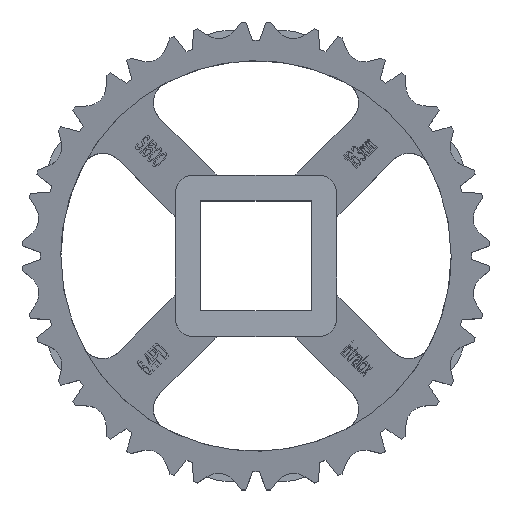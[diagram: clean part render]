
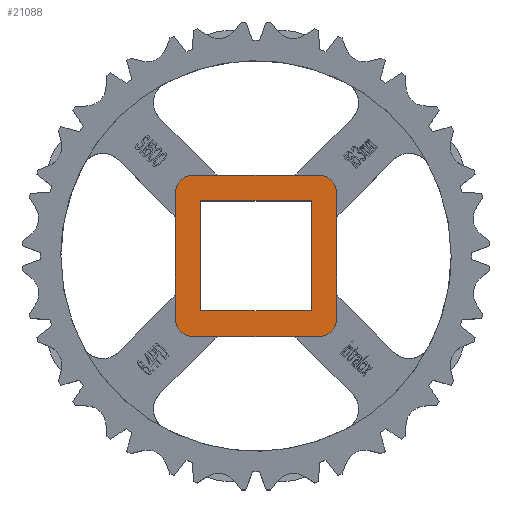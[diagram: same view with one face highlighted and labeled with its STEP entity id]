
A CAD part, top view. The second image highlights one B-rep face of the part: STEP entity #21088.
In plain terms, the highlighted planar face has unit normal (0, 0, 1).
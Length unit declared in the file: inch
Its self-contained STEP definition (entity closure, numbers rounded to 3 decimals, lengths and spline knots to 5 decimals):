
#5889=CARTESIAN_POINT('',(0.85,0.85,0.99));
#5890=DIRECTION('',(0.,0.,1.));
#5891=DIRECTION('',(1.,0.,0.));
#5892=AXIS2_PLACEMENT_3D('',#5889,#5890,#5891);
#5894=DIRECTION('',(0.,1.,0.));
#5895=VECTOR('',#5894,1.7);
#5896=CARTESIAN_POINT('',(1.1,-0.85,0.99));
#5897=LINE('',#5896,#5895);
#5898=CARTESIAN_POINT('',(0.85,-0.85,0.99));
#5899=DIRECTION('',(0.,0.,1.));
#5900=DIRECTION('',(0.,-1.,0.));
#5901=AXIS2_PLACEMENT_3D('',#5898,#5899,#5900);
#5903=DIRECTION('',(1.,0.,0.));
#5904=VECTOR('',#5903,1.7);
#5905=CARTESIAN_POINT('',(-0.85,-1.1,0.99));
#5906=LINE('',#5905,#5904);
#5907=CARTESIAN_POINT('',(-0.85,-0.85,0.99));
#5908=DIRECTION('',(0.,0.,1.));
#5909=DIRECTION('',(-1.,0.,0.));
#5910=AXIS2_PLACEMENT_3D('',#5907,#5908,#5909);
#5912=DIRECTION('',(0.,-1.,0.));
#5913=VECTOR('',#5912,1.7);
#5914=CARTESIAN_POINT('',(-1.1,0.85,0.99));
#5915=LINE('',#5914,#5913);
#5916=CARTESIAN_POINT('',(-0.85,0.85,0.99));
#5917=DIRECTION('',(0.,0.,1.));
#5918=DIRECTION('',(0.,1.,0.));
#5919=AXIS2_PLACEMENT_3D('',#5916,#5917,#5918);
#5921=DIRECTION('',(-1.,0.,0.));
#5922=VECTOR('',#5921,1.7);
#5923=CARTESIAN_POINT('',(0.85,1.1,0.99));
#5924=LINE('',#5923,#5922);
#5925=DIRECTION('',(1.,0.,0.));
#5926=VECTOR('',#5925,1.5);
#5927=CARTESIAN_POINT('',(-0.75,-0.75,0.99));
#5928=LINE('',#5927,#5926);
#5929=DIRECTION('',(0.,1.,0.));
#5930=VECTOR('',#5929,1.5);
#5931=CARTESIAN_POINT('',(0.75,-0.75,0.99));
#5932=LINE('',#5931,#5930);
#5933=DIRECTION('',(-1.,0.,0.));
#5934=VECTOR('',#5933,1.5);
#5935=CARTESIAN_POINT('',(0.75,0.75,0.99));
#5936=LINE('',#5935,#5934);
#5937=DIRECTION('',(0.,-1.,0.));
#5938=VECTOR('',#5937,1.5);
#5939=CARTESIAN_POINT('',(-0.75,0.75,0.99));
#5940=LINE('',#5939,#5938);
#12939=CARTESIAN_POINT('',(1.1,0.85,0.99));
#12941=VERTEX_POINT('',#12939);
#12943=CARTESIAN_POINT('',(0.85,1.1,0.99));
#12944=VERTEX_POINT('',#12943);
#12947=CARTESIAN_POINT('',(-0.85,1.1,0.99));
#12949=VERTEX_POINT('',#12947);
#12951=CARTESIAN_POINT('',(-1.1,0.85,0.99));
#12952=VERTEX_POINT('',#12951);
#12955=CARTESIAN_POINT('',(-1.1,-0.85,0.99));
#12957=VERTEX_POINT('',#12955);
#12959=CARTESIAN_POINT('',(-0.85,-1.1,0.99));
#12960=VERTEX_POINT('',#12959);
#12963=CARTESIAN_POINT('',(0.85,-1.1,0.99));
#12965=VERTEX_POINT('',#12963);
#12967=CARTESIAN_POINT('',(1.1,-0.85,0.99));
#12968=VERTEX_POINT('',#12967);
#15951=CARTESIAN_POINT('',(-0.75,-0.75,0.99));
#15952=CARTESIAN_POINT('',(0.75,-0.75,0.99));
#15953=VERTEX_POINT('',#15951);
#15954=VERTEX_POINT('',#15952);
#15955=CARTESIAN_POINT('',(0.75,0.75,0.99));
#15956=VERTEX_POINT('',#15955);
#15957=CARTESIAN_POINT('',(-0.75,0.75,0.99));
#15958=VERTEX_POINT('',#15957);
#21057=CARTESIAN_POINT('',(0.,0.,0.99));
#21058=DIRECTION('',(0.,0.,1.));
#21059=DIRECTION('',(1.,0.,0.));
#21060=AXIS2_PLACEMENT_3D('',#21057,#21058,#21059);
#21061=PLANE('',#21060);
#21062=ORIENTED_EDGE('',*,*,#21049,.F.);
#21063=ORIENTED_EDGE('',*,*,#21038,.F.);
#21065=ORIENTED_EDGE('',*,*,#21064,.F.);
#21067=ORIENTED_EDGE('',*,*,#21066,.F.);
#21069=ORIENTED_EDGE('',*,*,#21068,.F.);
#21071=ORIENTED_EDGE('',*,*,#21070,.F.);
#21073=ORIENTED_EDGE('',*,*,#21072,.F.);
#21075=ORIENTED_EDGE('',*,*,#21074,.F.);
#21076=EDGE_LOOP('',(#21062,#21063,#21065,#21067,#21069,#21071,#21073,#21075));
#21077=FACE_OUTER_BOUND('',#21076,.F.);
#21079=ORIENTED_EDGE('',*,*,#21078,.T.);
#21081=ORIENTED_EDGE('',*,*,#21080,.T.);
#21083=ORIENTED_EDGE('',*,*,#21082,.T.);
#21085=ORIENTED_EDGE('',*,*,#21084,.T.);
#21086=EDGE_LOOP('',(#21079,#21081,#21083,#21085));
#21087=FACE_BOUND('',#21086,.F.);
#21088=ADVANCED_FACE('',(#21077,#21087),#21061,.T.);
#5893=CIRCLE('',#5892,0.25);
#5902=CIRCLE('',#5901,0.25);
#5911=CIRCLE('',#5910,0.25);
#5920=CIRCLE('',#5919,0.25);
#21038=EDGE_CURVE('',#12968,#12941,#5897,.T.);
#21049=EDGE_CURVE('',#12941,#12944,#5893,.T.);
#21064=EDGE_CURVE('',#12965,#12968,#5902,.T.);
#21066=EDGE_CURVE('',#12960,#12965,#5906,.T.);
#21068=EDGE_CURVE('',#12957,#12960,#5911,.T.);
#21070=EDGE_CURVE('',#12952,#12957,#5915,.T.);
#21072=EDGE_CURVE('',#12949,#12952,#5920,.T.);
#21074=EDGE_CURVE('',#12944,#12949,#5924,.T.);
#21078=EDGE_CURVE('',#15953,#15954,#5928,.T.);
#21080=EDGE_CURVE('',#15954,#15956,#5932,.T.);
#21082=EDGE_CURVE('',#15956,#15958,#5936,.T.);
#21084=EDGE_CURVE('',#15958,#15953,#5940,.T.);
